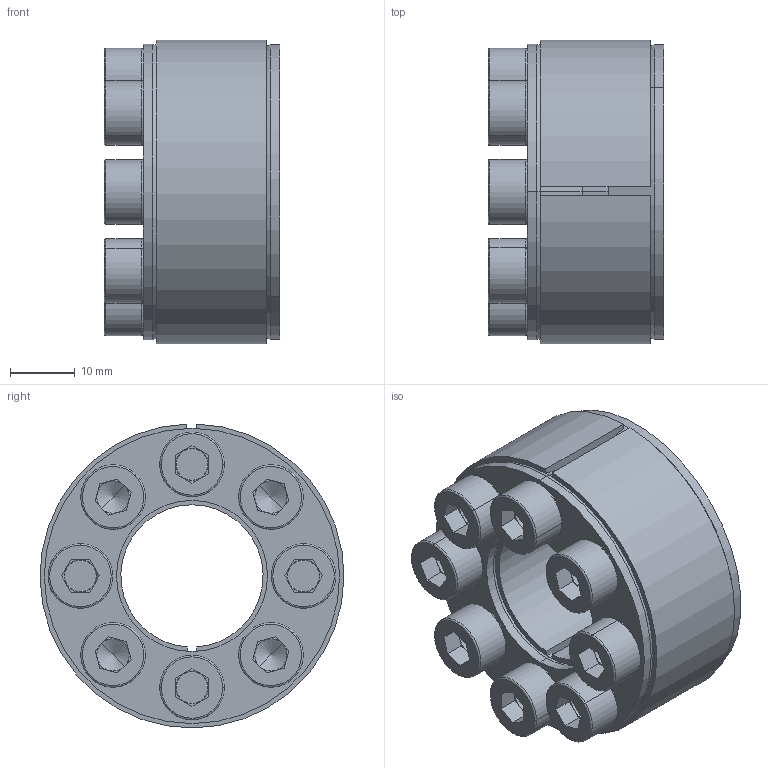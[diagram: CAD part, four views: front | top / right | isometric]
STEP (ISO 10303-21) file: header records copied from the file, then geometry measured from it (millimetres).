
FILE_DESCRIPTION (( 'STEP AP203' ), '1' );
FILE_NAME ('D1-22-47 Assy.STEP', '2017-10-11T03:15:08', ( 'MYCOM' ), ( '' ), 'SwSTEP 2.0', 'SolidWorks 2015', '' );
FILE_SCHEMA (( 'CONFIG_CONTROL_DESIGN' ));
Length unit declared in the file: millimetre
Products named in the file (1): D1-22-47 Assy
Bounding box: 27.14 x 46.99 x 46.99 mm (x, y, z)
Surface area: 13934.3 mm2 (no closed solid volume)
Topology: 0 solids, 20 shells, 247 faces, 595 edges, 362 vertices
Faces by surface type: plane 120, cylinder 59, cone 36, torus 32
Entity records: 7173 total; most frequent: DIRECTION 1353, CARTESIAN_POINT 1245, ORIENTED_EDGE 1072, EDGE_CURVE 587, AXIS2_PLACEMENT_3D 526, VERTEX_POINT 362, VECTOR 301, LINE 301
